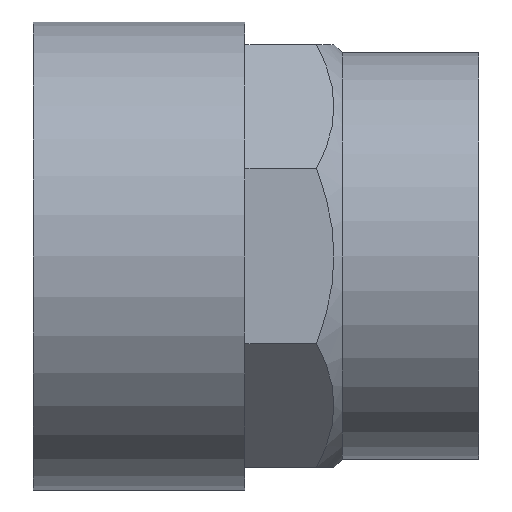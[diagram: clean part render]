
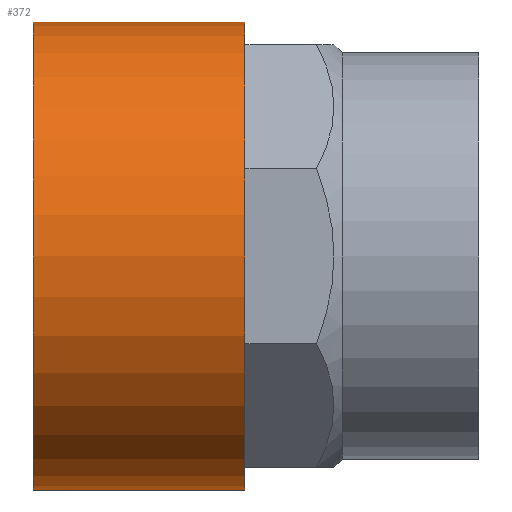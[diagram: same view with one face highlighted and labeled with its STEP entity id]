
A CAD part, front view. The second image highlights one B-rep face of the part: STEP entity #372.
In plain terms, the highlighted cylindrical face has radius 26.5 mm (diameter 53 mm), a full revolution.
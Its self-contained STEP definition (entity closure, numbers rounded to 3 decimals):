
#19=CYLINDRICAL_SURFACE('',#410,26.5);
#37=FACE_BOUND('',#110,.T.);
#40=CIRCLE('',#385,26.5);
#52=CIRCLE('',#409,26.5);
#74=FACE_OUTER_BOUND('',#109,.T.);
#109=EDGE_LOOP('',(#333));
#110=EDGE_LOOP('',(#334));
#186=VERTEX_POINT('',#595);
#199=VERTEX_POINT('',#639);
#230=EDGE_CURVE('',#186,#186,#40,.T.);
#245=EDGE_CURVE('',#199,#199,#52,.T.);
#333=ORIENTED_EDGE('',*,*,#230,.F.);
#334=ORIENTED_EDGE('',*,*,#245,.T.);
#372=ADVANCED_FACE('',(#74,#37),#19,.T.);
#385=AXIS2_PLACEMENT_3D('',#596,#447,#448);
#409=AXIS2_PLACEMENT_3D('',#640,#496,#497);
#410=AXIS2_PLACEMENT_3D('',#641,#498,#499);
#447=DIRECTION('center_axis',(1.,0.,0.));
#448=DIRECTION('ref_axis',(0.,1.,0.));
#496=DIRECTION('center_axis',(1.,0.,0.));
#497=DIRECTION('ref_axis',(0.,1.,0.));
#498=DIRECTION('center_axis',(1.,0.,0.));
#499=DIRECTION('ref_axis',(0.,1.,0.));
#595=CARTESIAN_POINT('',(-1.25,26.5,0.));
#596=CARTESIAN_POINT('Origin',(-1.25,0.,0.));
#639=CARTESIAN_POINT('',(-25.25,26.5,0.));
#640=CARTESIAN_POINT('Origin',(-25.25,0.,0.));
#641=CARTESIAN_POINT('Origin',(-13.25,0.,0.));
